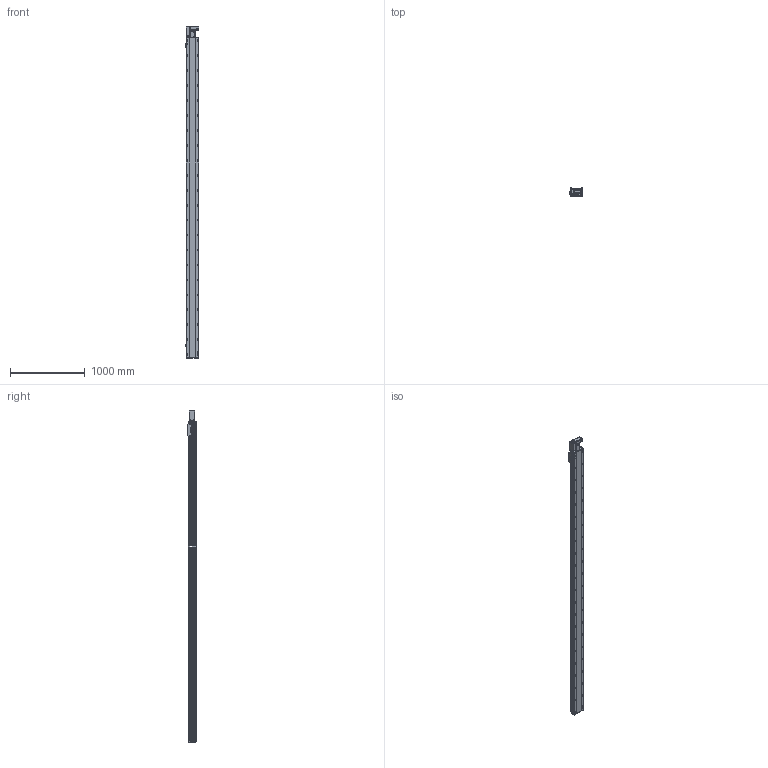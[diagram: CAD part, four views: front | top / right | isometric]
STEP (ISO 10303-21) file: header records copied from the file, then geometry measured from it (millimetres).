
FILE_DESCRIPTION (( 'STEP AP214' ), '1' );
FILE_NAME ('RTB17S-XX-4000-L-M40-C4.STEP', '2025-12-11T06:12:24', ( '' ), ( '' ), 'SwSTEP 2.0', 'SolidWorks 2018', '' );
FILE_SCHEMA (( 'AUTOMOTIVE_DESIGN' ));
Length unit declared in the file: millimetre
Products named in the file (14): RTB14-L-017P^RTB17S-L-々湍釱蚾饜-400W_RTB17S-XX-XX-L-M40-C4; RTB14-L-018P^RTB17S-L-々湍釱蚾饜-400W_RTB17S-XX-XX-L-M40-C4; 400W侜督萇儂^RTB17S-XX-XX-L-M40-C4; OMRON EE-SX672 传感器^RTB17S-XX-XX-L-M40-C4; RMP17S-L-014-T20--々湍釱^RTB17S-L-々湍釱蚾饜-400W_RTB17S-XX-XX-L-M40-C4; RTB17S-L-001耜醱啣^RTB17S-XX-XX-L-M40-C4; RTB17S-L-々湍釱蚾饜-400W^RTB17S-XX-XX-L-M40-C4; RTH13-BL-012覜茼え俋离^RTB17S-XX-XX-L-M40-C4; RTB14-L-008-M20--萇儂啣^RTB17S-L-々湍釱蚾饜-400W_RTB17S-XX-XX-L-M40-C4; RTB14-L-005P--轴承塑胶压盖^RTB17S-L-皮带座装配-400W_RTB17S-XX-XX-L-M40-C4; RTB17-R-011菁釱^RTB17S-XX-XX-L-M40-C4; RTB17S-L-004佪裝蹟譫蟀諉釱^RTB17S-XX-XX-L-M40-C4; RTB17S-XX-4000-L-M40-C4; RTB17S-L-007奻裔^RTB17S-XX-XX-L-M40-C4
Assembly tree (16 placements, depth 3):
  RTB17S-XX-4000-L-M40-C4
    RTB17-R-011菁釱^RTB17S-XX-XX-L-M40-C4
    RTB17S-L-007奻裔^RTB17S-XX-XX-L-M40-C4
    OMRON EE-SX672 传感器^RTB17S-XX-XX-L-M40-C4  x3
    RTB17S-L-001耜醱啣^RTB17S-XX-XX-L-M40-C4
    400W侜督萇儂^RTB17S-XX-XX-L-M40-C4
    RTB17S-L-004佪裝蹟譫蟀諉釱^RTB17S-XX-XX-L-M40-C4
    RTH13-BL-012覜茼え俋离^RTB17S-XX-XX-L-M40-C4
    RTB17S-L-々湍釱蚾饜-400W^RTB17S-XX-XX-L-M40-C4
      RMP17S-L-014-T20--々湍釱^RTB17S-L-々湍釱蚾饜-400W_RTB17S-XX-XX-L-M40-C4
      RTB14-L-005P--轴承塑胶压盖^RTB17S-L-皮带座装配-400W_RTB17S-XX-XX-L-M40-C4
      RTB14-L-008-M20--萇儂啣^RTB17S-L-々湍釱蚾饜-400W_RTB17S-XX-XX-L-M40-C4
      RTB14-L-017P^RTB17S-L-々湍釱蚾饜-400W_RTB17S-XX-XX-L-M40-C4  x2
      RTB14-L-018P^RTB17S-L-々湍釱蚾饜-400W_RTB17S-XX-XX-L-M40-C4
Bounding box: 186 x 108 x 4441 mm (x, y, z)
Volume: 36841700.2 mm3; surface area: 4165039.7 mm2
Topology: 15 solids, 15 shells, 2445 faces, 6897 edges, 4509 vertices
Faces by surface type: plane 1098, cylinder 899, bspline 301, cone 139, torus 8
Entity records: 74153 total; most frequent: CARTESIAN_POINT 21302, ORIENTED_EDGE 10638, DIRECTION 9746, EDGE_CURVE 5319, VERTEX_POINT 3497, AXIS2_PLACEMENT_3D 3427, LINE 2892, VECTOR 2892
